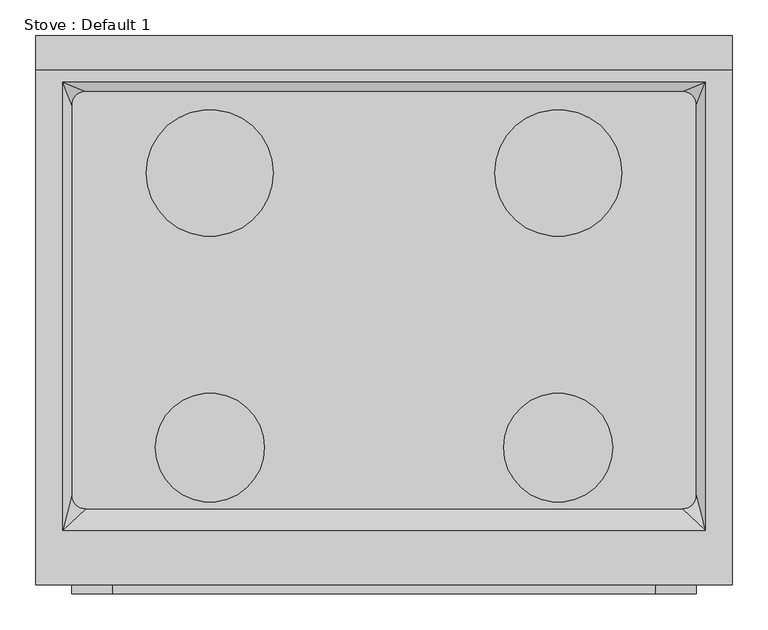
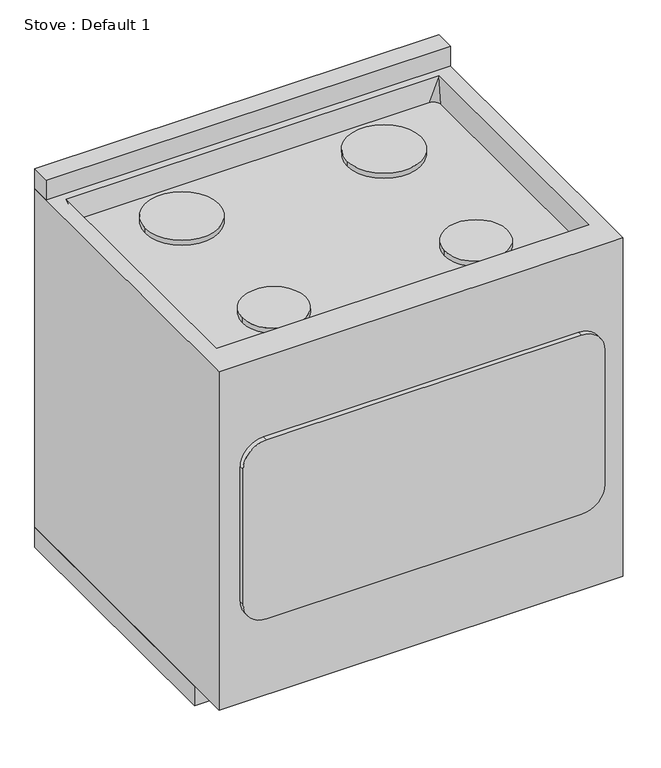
"""IFC4 building model written with IfcOpenShell, lengths in millimetres: proxy geometry, Stove : Default 1."""

import ifcopenshell
import ifcopenshell.guid

model = None  # the IFC model being written
_history = None  # IfcOwnerHistory: only IFC2X3 demands one
_inside = {}  # id of a spatial element -> (the spatial element, [elements in it])
_under = {}  # id of a project, library or spatial element -> (it, [spatial elements below it])
_declared = {}  # id of a project -> (the project, [libraries it declares])
_typed = {}  # id of a type object -> (the type object, [elements of that type])
_made_of = {}  # id of a material, layer set ... -> (it, [elements and type objects made of it])


def new_model(schema):
    """Start an empty IFC model of exactly this schema.

    Asked for "IFC4X3", IfcOpenShell would pick the latest addendum, in which some entities
    have other attributes; the version numbers below select the first issue.
    IFC2X3 requires an IfcOwnerHistory on every rooted entity: one is made here for all.
    """
    global model, _history
    if schema == "IFC4X3":
        model = ifcopenshell.file(schema_version=(4, 3, 0, 0))
    else:
        model = ifcopenshell.file(schema=schema)
    _inside.clear()
    _under.clear()
    _declared.clear()
    _typed.clear()
    _made_of.clear()
    _history = None
    if model.schema == "IFC2X3":
        org = make("IfcOrganization", Name="unknown")
        user = make(
            "IfcPersonAndOrganization",
            ThePerson=make("IfcPerson", FamilyName="unknown"),
            TheOrganization=org,
        )
        app = make(
            "IfcApplication",
            ApplicationDeveloper=org,
            Version="unknown",
            ApplicationFullName="unknown",
            ApplicationIdentifier="unknown",
        )
        _history = make(
            "IfcOwnerHistory",
            OwningUser=user,
            OwningApplication=app,
            ChangeAction="ADDED",
            CreationDate=0,
        )
    return model


def make(cls, **values):
    """One entity of the class cls with the attributes given. An attribute that is None is left unset."""
    return model.create_entity(
        cls, **{name: value for name, value in values.items() if value is not None}
    )


def rooted(cls, **values):
    """An entity with a GlobalId (a new one), such as an element, a storey or a relation."""
    return make(cls, GlobalId=ifcopenshell.guid.new(), OwnerHistory=_history, **values)


def si_unit(unit_type, name, prefix=None):
    """IfcSIUnit, for example si_unit("LENGTHUNIT", "METRE", prefix="MILLI")."""
    return make("IfcSIUnit", UnitType=unit_type, Prefix=prefix, Name=name)


def assignment(units):
    """IfcUnitAssignment: the units of a project."""
    return None if units is None else make("IfcUnitAssignment", Units=units)


def point(xyz):
    """IfcCartesianPoint."""
    return None if xyz is None else make("IfcCartesianPoint", Coordinates=xyz)


def direction(xyz):
    """IfcDirection."""
    return None if xyz is None else make("IfcDirection", DirectionRatios=xyz)


def frame(location, z_axis=None, x_axis=None):
    """IfcAxis2Placement3D, a coordinate frame: its origin and axes. An axis left out is left unset."""
    return make(
        "IfcAxis2Placement3D",
        Location=point(location),
        Axis=direction(z_axis),
        RefDirection=direction(x_axis),
    )


def frame_2d(location, x_axis=None):
    """IfcAxis2Placement2D, a coordinate frame in the plane: its origin and x axis."""
    return make(
        "IfcAxis2Placement2D", Location=point(location), RefDirection=direction(x_axis)
    )


def origin():
    """The frame at (0, 0, 0) with its axes left unset."""
    return frame((0.0, 0.0, 0.0))


def origin_with_axes():
    """The frame at (0, 0, 0) with the z axis (0, 0, 1) and the x axis (1, 0, 0) written out."""
    return frame((0.0, 0.0, 0.0), z_axis=(0.0, 0.0, 1.0), x_axis=(1.0, 0.0, 0.0))


def place(relative_to, where):
    """IfcLocalPlacement: puts the frame where relative to a parent placement (None: the world)."""
    return make(
        "IfcLocalPlacement", PlacementRelTo=relative_to, RelativePlacement=where
    )


def context(
    kind, dimensions, precision=None, world=None, true_north=None, identifier=None
):
    """IfcGeometricRepresentationContext, for example the 3D "Model" context."""
    return make(
        "IfcGeometricRepresentationContext",
        ContextIdentifier=identifier,
        ContextType=kind,
        CoordinateSpaceDimension=dimensions,
        Precision=precision,
        WorldCoordinateSystem=world,
        TrueNorth=true_north,
    )


def project(units=None, contexts=None):
    """IfcProject with its units and contexts."""
    return rooted(
        "IfcProject",
        Name="project",
        RepresentationContexts=contexts,
        UnitsInContext=assignment(units),
    )


def spatial(cls, under=None, at=None, **own):
    """A site, building, storey or space (cls), placed at a placement, below another one or the project."""
    s = rooted(cls, ObjectPlacement=at, **own)
    if under is not None:
        _under.setdefault(under.id(), (under, []))[1].append(s)
    return s


def polyline(points):
    """IfcPolyline through the points."""
    return make("IfcPolyline", Points=[point(p) for p in points])


def circle_curve(where, radius):
    """IfcCircle in the frame where."""
    return make("IfcCircle", Position=where, Radius=radius)


def trimmed(basis, trim1, trim2, sense, master):
    """IfcTrimmedCurve: the piece of a basis curve between two trims."""
    return make(
        "IfcTrimmedCurve",
        BasisCurve=basis,
        Trim1=trim1,
        Trim2=trim2,
        SenseAgreement=sense,
        MasterRepresentation=master,
    )


def segment(curve, same_sense, transition):
    """IfcCompositeCurveSegment."""
    return make(
        "IfcCompositeCurveSegment",
        Transition=transition,
        SameSense=same_sense,
        ParentCurve=curve,
    )


def composite_curve(segments, self_intersect=None):
    """IfcCompositeCurve: segments joined end to end."""
    return make("IfcCompositeCurve", Segments=segments, SelfIntersect=self_intersect)


def outline(outer, holes=None, kind="AREA"):
    """IfcArbitraryClosedProfileDef: a profile drawn as a closed curve; with holes, ...WithVoids."""
    if holes is None:
        return make("IfcArbitraryClosedProfileDef", ProfileType=kind, OuterCurve=outer)
    return make(
        "IfcArbitraryProfileDefWithVoids",
        ProfileType=kind,
        OuterCurve=outer,
        InnerCurves=holes,
    )


def extrude(swept, where, along, depth):
    """IfcExtrudedAreaSolid: the profile swept, set in the frame where, extruded along a direction by depth."""
    return make(
        "IfcExtrudedAreaSolid",
        SweptArea=swept,
        Position=where,
        ExtrudedDirection=direction(along),
        Depth=depth,
    )


def shape(context_of_items, identifier, shape_type, items):
    """IfcShapeRepresentation: the items that make up one representation, for example the "Body"."""
    return make(
        "IfcShapeRepresentation",
        ContextOfItems=context_of_items,
        RepresentationIdentifier=identifier,
        RepresentationType=shape_type,
        Items=items,
    )


def source(mapping_origin, context_of_items, identifier, shape_type, items):
    """IfcRepresentationMap: a shape defined once, which mapped items show again and again."""
    return make(
        "IfcRepresentationMap",
        MappingOrigin=mapping_origin,
        MappedRepresentation=shape(context_of_items, identifier, shape_type, items),
    )


def transform(
    local_origin,
    x_axis=None,
    y_axis=None,
    z_axis=None,
    scale=None,
    scale2=None,
    scale3=None,
    uniform=True,
):
    """IfcCartesianTransformationOperator3D, or its non-uniform kind. x_axis, y_axis, z_axis: its Axis1, 2, 3."""
    if uniform:
        return make(
            "IfcCartesianTransformationOperator3D",
            Axis1=direction(x_axis),
            Axis2=direction(y_axis),
            LocalOrigin=point(local_origin),
            Scale=scale,
            Axis3=direction(z_axis),
        )
    return make(
        "IfcCartesianTransformationOperator3DnonUniform",
        Axis1=direction(x_axis),
        Axis2=direction(y_axis),
        LocalOrigin=point(local_origin),
        Scale=scale,
        Axis3=direction(z_axis),
        Scale2=scale2,
        Scale3=scale3,
    )


def mapped(mapping_source, mapping_target):
    """IfcMappedItem: shows the shape of a source again, moved by a transform."""
    return make(
        "IfcMappedItem", MappingSource=mapping_source, MappingTarget=mapping_target
    )


def made_of(thing, what):
    """Note that an element or type object is made of a material, layer set ...; save() writes the relation."""
    if what is not None:
        _made_of.setdefault(what.id(), (what, []))[1].append(thing)
    return thing


def element(
    cls,
    number,
    at=None,
    inside=None,
    cuts=None,
    type_object=None,
    material=None,
    context=None,
    identifier="Body",
    shape_type=None,
    held_by="IfcProductDefinitionShape",
    body=None,
    shapes=None,
    **own,
):
    """One element of the class cls, such as IfcWall. Its Tag is "e" and its number.

    at: its placement. inside: the storey or other place that contains it. cuts: it is an
    opening in that element (IfcRelVoidsElement). A single representation is given by context,
    identifier, shape_type and body (its items); several are given by shapes. held_by: the class
    of the entity that holds the representations. save() writes the other relations.
    """
    e = rooted(cls, Tag="e%d" % number, ObjectPlacement=at, **own)
    if body is not None:
        shapes = [shape(context, identifier, shape_type, body)]
    if shapes is not None:
        e.Representation = make(held_by, Representations=shapes)
    if inside is not None:
        _inside.setdefault(inside.id(), (inside, []))[1].append(e)
    if cuts is not None:
        rooted(
            "IfcRelVoidsElement", RelatingBuildingElement=cuts, RelatedOpeningElement=e
        )
    if type_object is not None:
        _typed.setdefault(type_object.id(), (type_object, []))[1].append(e)
    return made_of(e, material)


def aggregate(whole, parts):
    """IfcRelAggregates: a whole, such as a stair, and the parts it consists of."""
    return rooted("IfcRelAggregates", RelatingObject=whole, RelatedObjects=parts)


def save(model, path):
    """Write the relations noted so far, then the file.

    IfcRelAggregates (storeys below a building ...), IfcRelContainedInSpatialStructure (elements
    in a storey), IfcRelDefinesByType, IfcRelAssociatesMaterial and IfcRelDeclares: one each for
    every whole, place, type object, material and project.
    """
    for whole, parts in _under.values():
        aggregate(whole, parts)
    for where, things in _inside.values():
        rooted(
            "IfcRelContainedInSpatialStructure",
            RelatedElements=things,
            RelatingStructure=where,
        )
    for kind, things in _typed.values():
        rooted("IfcRelDefinesByType", RelatedObjects=things, RelatingType=kind)
    for what, things in _made_of.values():
        rooted("IfcRelAssociatesMaterial", RelatedObjects=things, RelatingMaterial=what)
    for by, libraries in _declared.values():
        rooted("IfcRelDeclares", RelatingContext=by, RelatedDefinitions=libraries)
    model.write(path)


def plane_surface(at):
    """IfcPlane: the flat surface through the origin of the frame at, square to its z axis."""
    return make("IfcPlane", Position=at)


def spline_surface(u_degree, v_degree, points, u_multiplicities, v_multiplicities, u_knots, v_knots, weights=None):
    """IfcBSplineSurfaceWithKnots; with weights, IfcRationalBSplineSurfaceWithKnots. points: one row for each step in u."""
    own = dict(
        UDegree=u_degree,
        VDegree=v_degree,
        ControlPointsList=[[point(p) for p in row] for row in points],
        SurfaceForm="UNSPECIFIED",
        UClosed=False,
        VClosed=False,
        SelfIntersect=False,
        UMultiplicities=u_multiplicities,
        VMultiplicities=v_multiplicities,
        UKnots=u_knots,
        VKnots=v_knots,
        KnotSpec="UNSPECIFIED",
    )
    if weights is None:
        return make("IfcBSplineSurfaceWithKnots", **own)
    return make("IfcRationalBSplineSurfaceWithKnots", WeightsData=weights, **own)


def advanced_brep(points, edges, surfaces, faces):
    """IfcAdvancedBrep: a solid bounded by faces that lie on surfaces and meet in shared edges.

    An edge is (start, end): straight between two places in points (the first is 0);
    or (start, end, curve); or (start, end, curve, False) where it runs against its curve.
    A face is (place in surfaces, loops), or (place, loops, False) where it looks against
    its surface's normal. A loop lists edges by number (the first is 1), with a minus sign
    where the edge is run from its end to its start. The first loop is the outer one.
    """
    corners = [point(p) for p in points]
    vertices = [make("IfcVertexPoint", VertexGeometry=c) for c in corners]
    made = []
    for start, end, *more in edges:
        made.append(
            make(
                "IfcEdgeCurve",
                EdgeStart=vertices[start],
                EdgeEnd=vertices[end],
                EdgeGeometry=more[0] if more else make("IfcPolyline", Points=[corners[start], corners[end]]),
                SameSense=more[1] if len(more) > 1 else True,
            )
        )
    hull = []
    for where, loops, *sense in faces:
        bounds = []
        for j, loop in enumerate(loops):
            ring = [make("IfcOrientedEdge", EdgeElement=made[abs(k) - 1], Orientation=k > 0) for k in loop]
            bounds.append(
                make(
                    "IfcFaceOuterBound" if j == 0 else "IfcFaceBound",
                    Bound=make("IfcEdgeLoop", EdgeList=ring),
                    Orientation=True,
                )
            )
        hull.append(make("IfcAdvancedFace", Bounds=bounds, FaceSurface=surfaces[where], SameSense=sense[0] if sense else True))
    return make("IfcAdvancedBrep", Outer=make("IfcClosedShell", CfsFaces=hull))


def stove_default_1_1e377b31(model_context):
    return source(origin(), model_context, "Body", "SolidModel", [
        extrude(outline(composite_curve([segment(trimmed(circle_curve(frame_2d((-243.975, -192.5)), 88.9), [point((-332.875, -192.5))], [point((-155.075, -192.5))], False, "CARTESIAN"), True, "CONTINUOUS"), segment(trimmed(circle_curve(frame_2d((-243.975, -192.5)), 88.9), [point((-155.075, -192.5))], [point((-332.875, -192.5))], False, "CARTESIAN"), True, "CONTINUOUS")], self_intersect=False)), frame((0.0, 0.0, 863.6), z_axis=(0.0, 0.0, 1.0), x_axis=(1.0, 0.0, 0.0)), (0.0, 0.0, 1.0), 12.7),
        extrude(outline(composite_curve([segment(trimmed(circle_curve(frame_2d((243.975, -192.5)), 88.9), [point((332.875, -192.5))], [point((155.075, -192.5))], False, "CARTESIAN"), True, "CONTINUOUS"), segment(trimmed(circle_curve(frame_2d((243.975, -192.5)), 88.9), [point((155.075, -192.5))], [point((332.875, -192.5))], False, "CARTESIAN"), True, "CONTINUOUS")], self_intersect=False)), frame((0.0, 0.0, 863.6), z_axis=(0.0, 0.0, 1.0), x_axis=(1.0, 0.0, 0.0)), (0.0, 0.0, 1.0), 12.7),
        extrude(outline(composite_curve([segment(trimmed(circle_curve(frame_2d((-243.975, -577.5)), 76.2), [point((-320.175, -577.5))], [point((-167.775, -577.5))], False, "CARTESIAN"), True, "CONTINUOUS"), segment(trimmed(circle_curve(frame_2d((-243.975, -577.5)), 76.2), [point((-167.775, -577.5))], [point((-320.175, -577.5))], False, "CARTESIAN"), True, "CONTINUOUS")], self_intersect=False)), frame((0.0, 0.0, 863.6), z_axis=(0.0, 0.0, 1.0), x_axis=(1.0, 0.0, 0.0)), (0.0, 0.0, 1.0), 12.7),
        extrude(outline(composite_curve([segment(trimmed(circle_curve(frame_2d((243.975, -577.5)), 76.2), [point((167.775, -577.5))], [point((320.175, -577.5))], False, "CARTESIAN"), True, "CONTINUOUS"), segment(trimmed(circle_curve(frame_2d((243.975, -577.5)), 76.2), [point((320.175, -577.5))], [point((167.775, -577.5))], False, "CARTESIAN"), True, "CONTINUOUS")], self_intersect=False)), frame((0.0, 0.0, 863.6), z_axis=(0.0, 0.0, 1.0), x_axis=(1.0, 0.0, 0.0)), (0.0, 0.0, 1.0), 12.7),
        extrude(outline(composite_curve([segment(trimmed(circle_curve(frame_2d((243.975, -577.5)), 76.2), [point((167.775, -577.5))], [point((320.175, -577.5))], False, "CARTESIAN"), True, "CONTINUOUS"), segment(trimmed(circle_curve(frame_2d((243.975, -577.5)), 76.2), [point((320.175, -577.5))], [point((167.775, -577.5))], False, "CARTESIAN"), True, "CONTINUOUS")], self_intersect=False)), frame((0.0, 0.0, 863.6), z_axis=(0.0, 0.0, 1.0), x_axis=(1.0, 0.0, 0.0)), (0.0, 0.0, 1.0), 12.7),
        extrude(outline(composite_curve([segment(trimmed(circle_curve(frame_2d((-243.975, -577.5)), 76.2), [point((-320.175, -577.5))], [point((-167.775, -577.5))], False, "CARTESIAN"), True, "CONTINUOUS"), segment(trimmed(circle_curve(frame_2d((-243.975, -577.5)), 76.2), [point((-167.775, -577.5))], [point((-320.175, -577.5))], False, "CARTESIAN"), True, "CONTINUOUS")], self_intersect=False)), frame((0.0, 0.0, 863.6), z_axis=(0.0, 0.0, 1.0), x_axis=(1.0, 0.0, 0.0)), (0.0, 0.0, 1.0), 12.7),
        extrude(outline(composite_curve([segment(trimmed(circle_curve(frame_2d((243.975, -192.5)), 88.9), [point((155.075, -192.5))], [point((332.875, -192.5))], False, "CARTESIAN"), True, "CONTINUOUS"), segment(trimmed(circle_curve(frame_2d((243.975, -192.5)), 88.9), [point((332.875, -192.5))], [point((155.075, -192.5))], False, "CARTESIAN"), True, "CONTINUOUS")], self_intersect=False)), frame((0.0, 0.0, 863.6), z_axis=(0.0, 0.0, 1.0), x_axis=(1.0, 0.0, 0.0)), (0.0, 0.0, 1.0), 12.7),
        extrude(outline(composite_curve([segment(trimmed(circle_curve(frame_2d((-243.975, -192.5)), 88.9), [point((-332.875, -192.5))], [point((-155.075, -192.5))], False, "CARTESIAN"), True, "CONTINUOUS"), segment(trimmed(circle_curve(frame_2d((-243.975, -192.5)), 88.9), [point((-155.075, -192.5))], [point((-332.875, -192.5))], False, "CARTESIAN"), True, "CONTINUOUS")], self_intersect=False)), frame((0.0, 0.0, 863.6), z_axis=(0.0, 0.0, 1.0), x_axis=(1.0, 0.0, 0.0)), (0.0, 0.0, 1.0), 12.7),
        extrude(outline(polyline([(487.95, 0.0), (487.95, -668.4), (-487.95, -668.4), (-487.95, 0.0), (487.95, 0.0)])), origin_with_axes(), (0.0, 0.0, 1.0), 50.8),
        advanced_brep(
        [(487.95, 0.0, 914.4), (-487.95, 0.0, 914.4), (-487.95, -770.0, 914.4), (487.95, -770.0, 914.4), (-449.85, -65.5, 914.4), (449.85, -65.5, 914.4), (449.85, -693.8, 914.4), (-449.85, -693.8, 914.4), (487.95, 0.0, 50.8), (487.95, -770.0, 50.8), (-487.95, -770.0, 50.8), (-487.95, 0.0, 50.8), (418.1, -78.2, 863.6), (-418.1, -78.2, 863.6), (-437.15, -97.25, 863.6), (-437.15, -644.175, 863.6), (-418.1, -663.225, 863.6), (418.1, -663.225, 863.6), (437.15, -644.175, 863.6), (437.15, -97.25, 863.6)],
        [
            (0, 1),
            (1, 2),
            (2, 3),
            (3, 0),
            (4, 5),
            (5, 6),
            (6, 7),
            (7, 4),
            (8, 9),
            (9, 10),
            (10, 11),
            (11, 8),
            (0, 8),
            (11, 1),
            (10, 2),
            (9, 3),
            (12, 13),
            (13, 14, circle_curve(frame((-418.1, -97.25, 863.6), z_axis=(0.0, 0.0, 1.0), x_axis=(1.0, 0.0, 0.0)), 19.05)),
            (14, 15),
            (15, 16, circle_curve(frame((-418.1, -644.175, 863.6), z_axis=(0.0, 0.0, 1.0), x_axis=(1.0, 0.0, 0.0)), 19.05)),
            (16, 17),
            (17, 18, circle_curve(frame((418.1, -644.175, 863.6), z_axis=(0.0, 0.0, 1.0), x_axis=(1.0, 0.0, 0.0)), 19.05)),
            (18, 19),
            (19, 12, circle_curve(frame((418.1, -97.25, 863.6), z_axis=(0.0, 0.0, 1.0), x_axis=(1.0, 0.0, 0.0)), 19.05)),
            (12, 5),
            (4, 13),
            (4, 14),
            (7, 15),
            (7, 16),
            (6, 17),
            (6, 18),
            (5, 19),
        ],
        [
            plane_surface(frame((-487.95, 0.0, 914.4), z_axis=(0.0, 0.0, 1.0), x_axis=(-1.0, 0.0, 0.0))),
            plane_surface(frame((-487.95, 0.0, 50.8), z_axis=(0.0, 0.0, -1.0), x_axis=(1.0, 0.0, 0.0))),
            plane_surface(frame((487.95, 0.0, 914.4), z_axis=(0.0, 1.0, 0.0), x_axis=(0.0, 0.0, -1.0))),
            plane_surface(frame((-487.95, 0.0, 914.4), z_axis=(-1.0, 0.0, 0.0), x_axis=(0.0, 0.0, -1.0))),
            plane_surface(frame((-487.95, -770.0, 914.4), z_axis=(0.0, -1.0, 0.0), x_axis=(0.0, 0.0, -1.0))),
            plane_surface(frame((487.95, -770.0, 914.4), z_axis=(1.0, 0.0, 0.0), x_axis=(0.0, 0.0, -1.0))),
            plane_surface(frame((0.0, -370.7125, 863.6), z_axis=(0.0, 0.0, 1.0), x_axis=(-1.0, 0.0, 0.0))),
            plane_surface(frame((0.0, -78.2, 863.6), z_axis=(0.0, -0.9701425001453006, 0.24253562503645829), x_axis=(-1.0, 0.0, 0.0))),
            spline_surface(1, 2, [[(-418.1, -78.2, 863.6), (-437.15000000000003, -78.19999999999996, 863.6), (-437.15, -97.25, 863.6)], [(-449.85, -65.5, 914.4), (-449.85, -65.5, 914.4), (-449.85, -65.5, 914.4)]], [2, 2], [3, 3], [0.0, 1.0], [0.0, 1.0], weights=[[1.0, 0.7071067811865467, 1.0], [1.0, 0.7071067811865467, 1.0]]),
            plane_surface(frame((-437.15, -370.7125, 863.6), z_axis=(0.9701425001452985, 0.0, 0.24253562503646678), x_axis=(0.0, -1.0, 0.0))),
            spline_surface(1, 2, [[(-437.15, -644.175, 863.6), (-437.14999999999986, -663.2249999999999, 863.6), (-418.1, -663.225, 863.6)], [(-449.85, -693.8, 914.4), (-449.85, -693.8, 914.4), (-449.85, -693.8, 914.4)]], [2, 2], [3, 3], [0.0, 1.0], [0.0, 1.0], weights=[[1.0, 0.7071067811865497, 1.0], [1.0, 0.7071067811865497, 1.0]]),
            plane_surface(frame((0.0, -663.225, 863.6), z_axis=(0.0, 0.856785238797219, 0.5156733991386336), x_axis=(1.0, 0.0, 0.0))),
            spline_surface(1, 2, [[(418.1, -663.225, 863.6), (437.1500000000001, -663.2250000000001, 863.6), (437.15, -644.175, 863.6)], [(449.85, -693.8, 914.4), (449.85, -693.8, 914.4), (449.85, -693.8, 914.4)]], [2, 2], [3, 3], [0.0, 1.0], [0.0, 1.0], weights=[[1.0, 0.7071067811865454, 1.0], [1.0, 0.7071067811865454, 1.0]]),
            plane_surface(frame((437.15, -370.7125, 863.6), z_axis=(-0.9701425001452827, 0.0, 0.24253562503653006), x_axis=(0.0, 1.0, 0.0))),
            spline_surface(1, 2, [[(437.15, -97.25, 863.6), (437.1499999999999, -78.20000000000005, 863.6), (418.1, -78.2, 863.6)], [(449.85, -65.5, 914.4), (449.85, -65.5, 914.4), (449.85, -65.5, 914.4)]], [2, 2], [3, 3], [0.0, 1.0], [0.0, 1.0], weights=[[1.0, 0.7071067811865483, 1.0], [1.0, 0.7071067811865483, 1.0]]),
        ],
        [
            (0, [[1, 2, 3, 4], [5, 6, 7, 8]]),
            (1, [[9, 10, 11, 12]]),
            (2, [[-1, 13, -12, 14]]),
            (3, [[-2, -14, -11, 15]]),
            (4, [[-3, -15, -10, 16]]),
            (5, [[-4, -16, -9, -13]]),
            (6, [[17, 18, 19, 20, 21, 22, 23, 24]]),
            (7, [[-17, 25, -5, 26]]),
            (8, [[-18, -26, 27]]),
            (9, [[-19, -27, -8, 28]]),
            (10, [[-20, -28, 29]]),
            (11, [[-21, -29, -7, 30]]),
            (12, [[-22, -30, 31]]),
            (13, [[-23, -31, -6, 32]]),
            (14, [[-24, -32, -25]]),
        ],
    ),
        extrude(outline(composite_curve([segment(polyline([(711.2, 380.0), (711.2, -380.0)]), True, "CONTINUOUS"), segment(trimmed(circle_curve(frame_2d((654.05, -380.0)), 57.15), [point((711.2, -380.0))], [point((654.05, -437.15))], False, "CARTESIAN"), True, "CONTINUOUS"), segment(polyline([(654.05, -437.15), (311.15, -437.15)]), True, "CONTINUOUS"), segment(trimmed(circle_curve(frame_2d((311.15, -380.0)), 57.15), [point((311.15, -437.15))], [point((254.0, -380.0))], False, "CARTESIAN"), True, "CONTINUOUS"), segment(polyline([(254.0, -380.0), (254.0, 380.0)]), True, "CONTINUOUS"), segment(trimmed(circle_curve(frame_2d((311.15, 380.0)), 57.15), [point((254.0, 380.0))], [point((311.15, 437.15))], False, "CARTESIAN"), True, "CONTINUOUS"), segment(polyline([(311.15, 437.15), (654.05, 437.15)]), True, "CONTINUOUS"), segment(trimmed(circle_curve(frame_2d((654.05, 380.0)), 57.15), [point((654.05, 437.15))], [point((711.2, 380.0))], False, "CARTESIAN"), True, "CONTINUOUS")], self_intersect=False)), frame((0.0, -782.7, 0.0), z_axis=(0.0, 1.0, 0.0), x_axis=(0.0, 0.0, 1.0)), (0.0, 0.0, 1.0), 12.7),
        extrude(outline(polyline([(487.95, 0.0), (487.95, -47.625), (-487.95, -47.625), (-487.95, 0.0), (487.95, 0.0)])), frame((0.0, 0.0, 914.4), z_axis=(0.0, 0.0, 1.0), x_axis=(1.0, 0.0, 0.0)), (0.0, 0.0, 1.0), 50.8),
    ])


if __name__ == "__main__":
    model = new_model("IFC4")
    model_context = context("Model", 3, world=origin())
    ifc_project = project(units=[si_unit("LENGTHUNIT", "METRE", prefix="MILLI")], contexts=[model_context])
    site = spatial("IfcSite", under=ifc_project)
    building = spatial("IfcBuilding", under=site)
    placement = place(None, origin())
    stove_default_1_shape = stove_default_1_1e377b31(model_context)
    element("IfcBuildingElementProxy", 1, Name="Stove : Default 1", ObjectType="Stove : Default 1", at=placement, inside=building, context=model_context, shape_type="MappedRepresentation", body=[
        mapped(stove_default_1_shape, transform((0.0, 0.0, 0.0), x_axis=(1.0, 0.0, 0.0), y_axis=(0.0, 1.0, 0.0), z_axis=(0.0, 0.0, 1.0))),
    ])
    save(model, "model.ifc")
